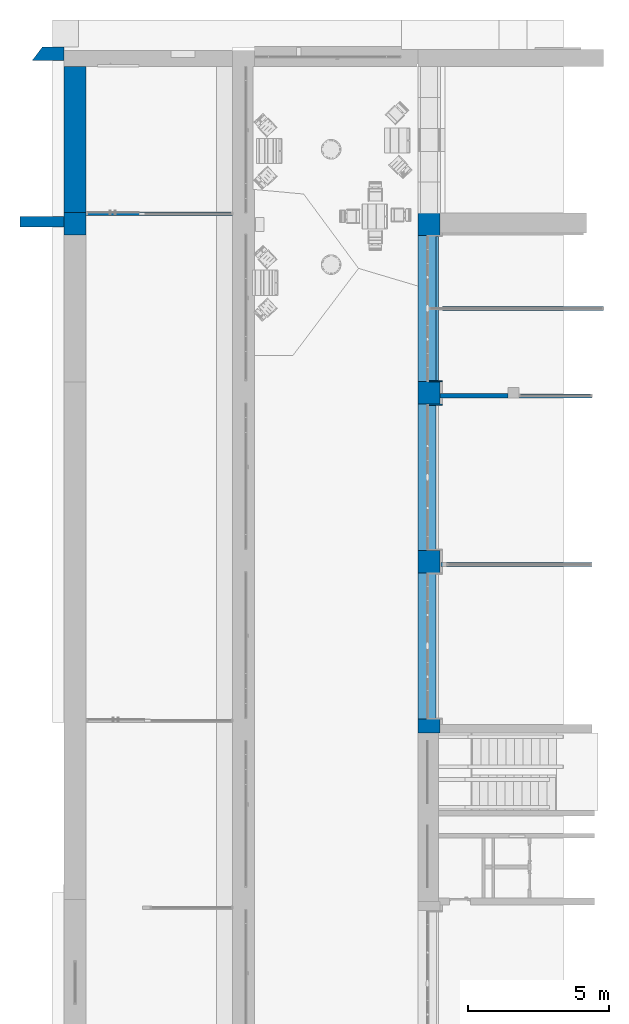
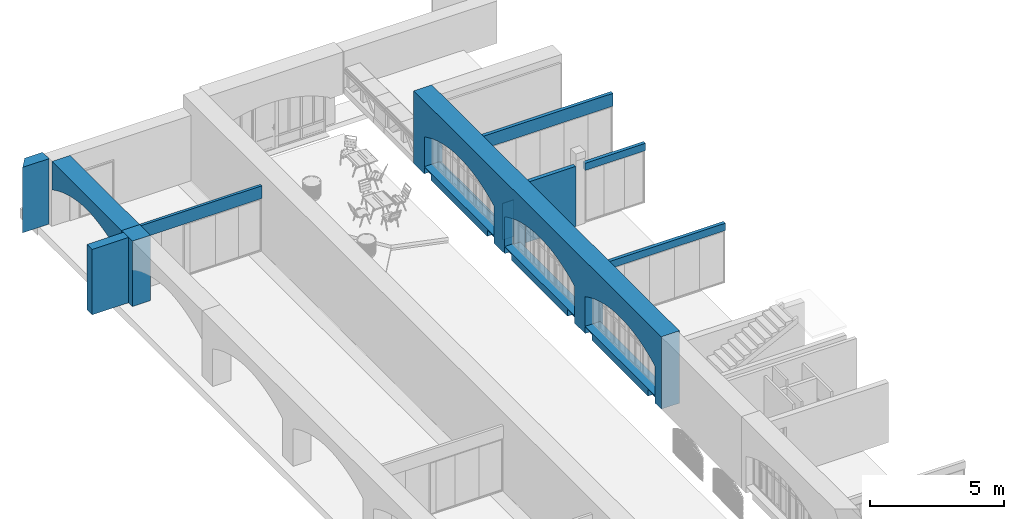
# One storey, part 74 of 88: 13 walls, 6 openings.
"""IFC2X3 building model written with IfcOpenShell, lengths in millimetres."""

from ifc_helpers import new_model, entity, si_unit, converted_unit, derived_unit, direction, frame, frame_2d, origin, origin_2d_with_axis, place, context, subcontext, project, spatial, polyline, circle_curve, parameter, trimmed, segment, composite_curve, rectangle, outline, extrude, material, layer, layer_set, layer_usage, type_object, element, save


model = new_model("IFC2X3")

# Units and contexts
model_context = context("Model", 3, precision=0.01, world=origin(), true_north=direction((6.123031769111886e-17, 1.0)))
body_context = subcontext(model_context, "Body", "Model", "MODEL_VIEW")
ifc_project = project(units=[si_unit("LENGTHUNIT", "METRE", prefix="MILLI"), si_unit("AREAUNIT", "SQUARE_METRE"), si_unit("VOLUMEUNIT", "CUBIC_METRE"), converted_unit("PLANEANGLEUNIT", "DEGREE", entity("IfcPlaneAngleMeasure", 0.017453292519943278), si_unit("PLANEANGLEUNIT", "RADIAN"), dimensions=[0, 0, 0, 0, 0, 0, 0]), si_unit("MASSUNIT", "GRAM", prefix="KILO"), derived_unit("MASSDENSITYUNIT", [(si_unit("MASSUNIT", "GRAM", prefix="KILO"), 1), (si_unit("LENGTHUNIT", "METRE"), -3)]), derived_unit("IONCONCENTRATIONUNIT", [(si_unit("MASSUNIT", "GRAM", prefix="KILO"), 1), (si_unit("LENGTHUNIT", "METRE"), -3)]), derived_unit("MOMENTOFINERTIAUNIT", [(si_unit("LENGTHUNIT", "METRE"), 4)]), si_unit("TIMEUNIT", "SECOND"), si_unit("FREQUENCYUNIT", "HERTZ"), si_unit("THERMODYNAMICTEMPERATUREUNIT", "DEGREE_CELSIUS"), derived_unit("THERMALTRANSMITTANCEUNIT", [(si_unit("MASSUNIT", "GRAM", prefix="KILO"), 1), (si_unit("THERMODYNAMICTEMPERATUREUNIT", "KELVIN"), -1), (si_unit("TIMEUNIT", "SECOND"), -3)]), derived_unit("THERMALCONDUCTANCEUNIT", [(si_unit("MASSUNIT", "GRAM", prefix="KILO"), 1), (si_unit("THERMODYNAMICTEMPERATUREUNIT", "KELVIN"), -1), (si_unit("TIMEUNIT", "SECOND"), -3), (si_unit("LENGTHUNIT", "METRE"), 1)]), derived_unit("VOLUMETRICFLOWRATEUNIT", [(si_unit("LENGTHUNIT", "METRE", prefix="DECI"), 3), (si_unit("TIMEUNIT", "SECOND"), -1)]), derived_unit("MASSFLOWRATEUNIT", [(si_unit("MASSUNIT", "GRAM", prefix="KILO"), 1), (si_unit("TIMEUNIT", "SECOND"), -1)]), derived_unit("ROTATIONALFREQUENCYUNIT", [(si_unit("TIMEUNIT", "SECOND"), -1)]), si_unit("ELECTRICCURRENTUNIT", "AMPERE"), si_unit("ELECTRICVOLTAGEUNIT", "VOLT"), si_unit("POWERUNIT", "WATT"), si_unit("FORCEUNIT", "NEWTON", prefix="KILO"), si_unit("ILLUMINANCEUNIT", "LUX"), si_unit("LUMINOUSFLUXUNIT", "LUMEN"), si_unit("LUMINOUSINTENSITYUNIT", "CANDELA"), si_unit("ENERGYUNIT", "JOULE"), derived_unit("USERDEFINED", [(si_unit("MASSUNIT", "GRAM", prefix="KILO"), -1), (si_unit("LENGTHUNIT", "METRE"), -2), (si_unit("TIMEUNIT", "SECOND"), 3), (si_unit("LUMINOUSFLUXUNIT", "LUMEN"), 1)]), derived_unit("USERDEFINED", [(si_unit("MASSUNIT", "GRAM", prefix="KILO"), 1), (si_unit("TIMEUNIT", "SECOND"), -3), (si_unit("LENGTHUNIT", "METRE"), 3), (si_unit("ELECTRICCURRENTUNIT", "AMPERE"), -2)]), derived_unit("SOUNDPOWERUNIT", [(si_unit("MASSUNIT", "GRAM", prefix="KILO"), 1), (si_unit("TIMEUNIT", "SECOND"), -3), (si_unit("LENGTHUNIT", "METRE"), 2)]), derived_unit("SOUNDPRESSUREUNIT", [(si_unit("MASSUNIT", "GRAM", prefix="KILO"), 1), (si_unit("LENGTHUNIT", "METRE"), -1), (si_unit("TIMEUNIT", "SECOND"), -2)]), derived_unit("LINEARVELOCITYUNIT", [(si_unit("LENGTHUNIT", "METRE"), 1), (si_unit("TIMEUNIT", "SECOND"), -1)]), si_unit("PRESSUREUNIT", "PASCAL"), derived_unit("USERDEFINED", [(si_unit("MASSUNIT", "GRAM", prefix="KILO"), 1), (si_unit("LENGTHUNIT", "METRE"), -2), (si_unit("TIMEUNIT", "SECOND"), -2)]), derived_unit("LINEARFORCEUNIT", [(si_unit("MASSUNIT", "GRAM", prefix="KILO"), 1), (si_unit("TIMEUNIT", "SECOND"), -2)]), derived_unit("PLANARFORCEUNIT", [(si_unit("MASSUNIT", "GRAM", prefix="KILO"), 1), (si_unit("LENGTHUNIT", "METRE"), -1), (si_unit("TIMEUNIT", "SECOND"), -2)]), derived_unit("SPECIFICHEATCAPACITYUNIT", [(si_unit("THERMODYNAMICTEMPERATUREUNIT", "KELVIN"), -1), (si_unit("LENGTHUNIT", "METRE"), 2), (si_unit("TIMEUNIT", "SECOND"), -2)]), derived_unit("HEATFLUXDENSITYUNIT", [(si_unit("MASSUNIT", "GRAM", prefix="KILO"), 1), (si_unit("TIMEUNIT", "SECOND"), -3)]), derived_unit("HEATINGVALUEUNIT", [(si_unit("LENGTHUNIT", "METRE"), 2), (si_unit("TIMEUNIT", "SECOND"), -2)]), derived_unit("VAPORPERMEABILITYUNIT", [(si_unit("LENGTHUNIT", "METRE"), -1), (si_unit("TIMEUNIT", "SECOND"), 1)]), derived_unit("DYNAMICVISCOSITYUNIT", [(si_unit("MASSUNIT", "GRAM", prefix="KILO"), 1), (si_unit("TIMEUNIT", "SECOND"), -1), (si_unit("LENGTHUNIT", "METRE"), -1)]), derived_unit("THERMALEXPANSIONCOEFFICIENTUNIT", [(si_unit("THERMODYNAMICTEMPERATUREUNIT", "KELVIN"), -1)]), derived_unit("MODULUSOFELASTICITYUNIT", [(si_unit("MASSUNIT", "GRAM", prefix="KILO"), 1), (si_unit("LENGTHUNIT", "METRE"), -1), (si_unit("TIMEUNIT", "SECOND"), -2)]), derived_unit("ISOTHERMALMOISTURECAPACITYUNIT", [(si_unit("MASSUNIT", "GRAM", prefix="KILO"), -1), (si_unit("LENGTHUNIT", "METRE"), 3)]), derived_unit("MOISTUREDIFFUSIVITYUNIT", [(si_unit("TIMEUNIT", "SECOND"), -1), (si_unit("LENGTHUNIT", "METRE"), 2)]), derived_unit("MASSPERLENGTHUNIT", [(si_unit("MASSUNIT", "GRAM", prefix="KILO"), 1), (si_unit("LENGTHUNIT", "METRE"), -1)]), derived_unit("THERMALRESISTANCEUNIT", [(si_unit("MASSUNIT", "GRAM", prefix="KILO"), -1), (si_unit("TIMEUNIT", "SECOND"), 3), (si_unit("THERMODYNAMICTEMPERATUREUNIT", "KELVIN"), 1)]), derived_unit("ACCELERATIONUNIT", [(si_unit("LENGTHUNIT", "METRE"), 1), (si_unit("TIMEUNIT", "SECOND"), -2)]), derived_unit("ANGULARVELOCITYUNIT", [(si_unit("TIMEUNIT", "SECOND"), -1), (si_unit("PLANEANGLEUNIT", "RADIAN"), 1)]), derived_unit("LINEARSTIFFNESSUNIT", [(si_unit("MASSUNIT", "GRAM", prefix="KILO"), 1), (si_unit("TIMEUNIT", "SECOND"), -2)]), derived_unit("WARPINGCONSTANTUNIT", [(si_unit("LENGTHUNIT", "METRE"), 6)]), derived_unit("LINEARMOMENTUNIT", [(si_unit("MASSUNIT", "GRAM", prefix="KILO"), 1), (si_unit("LENGTHUNIT", "METRE"), 1), (si_unit("TIMEUNIT", "SECOND"), -2)]), derived_unit("TORQUEUNIT", [(si_unit("MASSUNIT", "GRAM", prefix="KILO"), 1), (si_unit("LENGTHUNIT", "METRE"), 2), (si_unit("TIMEUNIT", "SECOND"), -2)])], contexts=[model_context])

# Site, building, storey
site_placement = place(None, origin())
site = spatial("IfcSite", under=ifc_project, at=site_placement, Name="Default", CompositionType="ELEMENT")
building_placement = place(site_placement, origin())
building = spatial("IfcBuilding", under=site, at=building_placement, Name="Eesti Rahvusraamatukogu hoone renoveerimise projekteerimistööd", CompositionType="ELEMENT")
storey_placement = place(building_placement, origin())
storey = spatial("IfcBuildingStorey", under=building, at=storey_placement, Name="1. korrus", CompositionType="ELEMENT", Elevation=0.0)

# Wall, openings
ifc_material_1 = material(Name="ol. olev materjal")
ifc_layer_1 = layer(ifc_material_1, 780.0)
ifc_layer_set_1 = layer_set([ifc_layer_1], Name="Basic Wall:ol. olev - 780mm")
ifc_layer_usage_1 = layer_usage(ifc_layer_set_1, "AXIS2", "NEGATIVE", 390.0)
wall_type_1 = type_object("IfcWallType", Name="Basic Wall:ol. olev - 780mm", PredefinedType="STANDARD", material=ifc_layer_set_1)
wall_1_placement = place(storey_placement, frame((-36390.0, 48780.0, 1650.0), z_axis=(0.0, 0.0, 1.0), x_axis=(0.0, -1.0, 0.0)))
wall_1 = element("IfcWallStandardCase", 1, at=wall_1_placement, inside=storey, type_object=wall_type_1, material=ifc_layer_usage_1, Name="Basic Wall:ol. olev - 780mm", ObjectType="Basic Wall:ol. olev - 780mm", context=body_context, shape_type="SweptSolid", body=[
    extrude(rectangle(XDim=18474.99999999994, YDim=779.9999999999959, at=frame_2d((9237.49999999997, -3.979039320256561e-13), x_axis=(-1.0, 0.0))), origin(), (0.0, 0.0, 1.0), 3300.0000000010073),
])
opening_1_placement = place(wall_1_placement, frame((5991.595272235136, -542.4000000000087, 330.0)))
element("IfcOpeningElement", 2, at=opening_1_placement, cuts=wall_1, Name="Basic Wall:ol. olev - 780mm", ObjectType="Opening", context=body_context, shape_type="SweptSolid", body=[
    extrude(outline(composite_curve([segment(polyline([(-675.0, -2600.0), (675.0, -2600.0)]), True, "CONTINUOUS"), segment(trimmed(circle_curve(frame_2d((-4195.143901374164, 0.0), x_axis=(0.0, -1.0)), 5520.7156800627), [parameter(61.90379627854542)], [parameter(118.09620372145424)], True, "PARAMETER"), True, "CONTINUOUS"), segment(polyline([(675.0, 2600.0), (-675.0, 2600.0)]), True, "CONTINUOUS"), segment(polyline([(-675.0, 2600.0), (-675.0, -2600.0)]), True, "CONTINUOUS")], self_intersect=False)), frame((-2601.5952722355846, 0.0, 675.0), z_axis=(0.0, 1.0, 0.0), x_axis=(0.0, 0.0, 1.0)), (0.0, 0.0, 1.0), 1084.8000000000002),
])
opening_2_placement = place(wall_1_placement, frame((48780.0, 36390.0, -1650.0)))
element("IfcOpeningElement", 3, at=opening_2_placement, cuts=wall_1, Name="Basic Wall:ol. olev - 780mm", ObjectType="Recess", context=body_context, shape_type="SweptSolid", body=[
    extrude(rectangle(XDim=3600.000000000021, YDim=499.999999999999, at=origin_2d_with_axis()), frame((-7040.0, -36790.0, 150.0), z_axis=(0.0, 1.0, 0.0), x_axis=(0.0, 0.0, -1.0)), (0.0, 0.0, 1.0), 199.99999999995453),
    extrude(rectangle(XDim=3600.000000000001, YDim=499.999999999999, at=frame_2d((0.0, -4.334310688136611e-12), x_axis=(1.0, 0.0))), frame((-47740.0, -36790.0, 150.0), z_axis=(0.0, 1.0, 0.0), x_axis=(0.0, 0.0, -1.0)), (0.0, 0.0, 1.0), 199.99999999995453),
    extrude(rectangle(XDim=3599.9999999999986, YDim=499.999999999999, at=frame_2d((0.0, -4.334310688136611e-12), x_axis=(1.0, 0.0))), frame((-43040.0, -36790.0, 150.0), z_axis=(0.0, 1.0, 0.0), x_axis=(0.0, 0.0, -1.0)), (0.0, 0.0, 1.0), 199.99999999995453),
    extrude(rectangle(XDim=3600.0000000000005, YDim=499.999999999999, at=frame_2d((2.2737367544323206e-13, -4.334310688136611e-12), x_axis=(1.0, 0.0))), frame((-41740.0, -36790.0, 150.0), z_axis=(0.0, 1.0, 0.0), x_axis=(0.0, 0.0, -1.0)), (0.0, 0.0, 1.0), 199.99999999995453),
    extrude(rectangle(XDim=3599.999999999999, YDim=499.999999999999, at=origin_2d_with_axis()), frame((-37040.0, -36790.0, 150.0), z_axis=(0.0, 1.0, 0.0), x_axis=(0.0, 0.0, -1.0)), (0.0, 0.0, 1.0), 199.99999999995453),
    extrude(rectangle(XDim=3599.999999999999, YDim=499.999999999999, at=origin_2d_with_axis()), frame((-35740.0, -36790.0, 150.0), z_axis=(0.0, 1.0, 0.0), x_axis=(0.0, 0.0, -1.0)), (0.0, 0.0, 1.0), 199.99999999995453),
    extrude(rectangle(XDim=3599.9999999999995, YDim=499.999999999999, at=frame_2d((-2.2737367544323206e-13, 0.0), x_axis=(1.0, 0.0))), frame((-31040.0, -36790.0, 150.0), z_axis=(0.0, 1.0, 0.0), x_axis=(0.0, 0.0, -1.0)), (0.0, 0.0, 1.0), 199.99999999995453),
    extrude(rectangle(XDim=3600.000000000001, YDim=499.999999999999, at=origin_2d_with_axis()), frame((-23740.0, -36790.0, 150.0), z_axis=(0.0, 1.0, 0.0), x_axis=(0.0, 0.0, -1.0)), (0.0, 0.0, 1.0), 199.99999999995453),
    extrude(rectangle(XDim=3600.0000000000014, YDim=500.0000000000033, at=frame_2d((-2.2737367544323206e-13, 2.1600499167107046e-12), x_axis=(1.0, 0.0))), frame((-19040.0, -36790.0, 150.0), z_axis=(0.0, 1.0, 0.0), x_axis=(0.0, 0.0, -1.0)), (0.0, 0.0, 1.0), 199.99999999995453),
    extrude(rectangle(XDim=3600.000000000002, YDim=499.999999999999, at=origin_2d_with_axis()), frame((-17740.0, -36790.0, 150.0), z_axis=(0.0, 1.0, 0.0), x_axis=(0.0, 0.0, -1.0)), (0.0, 0.0, 1.0), 199.99999999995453),
    extrude(rectangle(XDim=3600.0000000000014, YDim=500.0000000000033, at=origin_2d_with_axis()), frame((-13040.0, -36790.0, 150.0), z_axis=(0.0, 1.0, 0.0), x_axis=(0.0, 0.0, -1.0)), (0.0, 0.0, 1.0), 199.99999999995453),
    extrude(rectangle(XDim=3600.0000000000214, YDim=499.999999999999, at=origin_2d_with_axis()), frame((-11740.0, -36790.0, 150.0), z_axis=(0.0, 1.0, 0.0), x_axis=(0.0, 0.0, -1.0)), (0.0, 0.0, 1.0), 199.99999999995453),
])
opening_3_placement = place(wall_1_placement, frame((11991.595272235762, -542.4000000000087, 330.0)))
element("IfcOpeningElement", 4, at=opening_3_placement, cuts=wall_1, Name="Basic Wall:ol. olev - 780mm", ObjectType="Opening", context=body_context, shape_type="SweptSolid", body=[
    extrude(outline(composite_curve([segment(polyline([(-675.0, -2600.0), (675.0, -2600.0)]), True, "CONTINUOUS"), segment(trimmed(circle_curve(frame_2d((-4195.143901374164, 0.0), x_axis=(0.0, -1.0)), 5520.7156800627), [parameter(61.90379627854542)], [parameter(118.09620372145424)], True, "PARAMETER"), True, "CONTINUOUS"), segment(polyline([(675.0, 2600.0), (-675.0, 2600.0)]), True, "CONTINUOUS"), segment(polyline([(-675.0, 2600.0), (-675.0, -2600.0)]), True, "CONTINUOUS")], self_intersect=False)), frame((-2601.5952722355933, 0.0, 675.0), z_axis=(0.0, 1.0, 0.0), x_axis=(0.0, 0.0, 1.0)), (0.0, 0.0, 1.0), 1084.8000000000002),
])
opening_4_placement = place(wall_1_placement, frame((17991.595272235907, -542.4000000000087, 330.0)))
element("IfcOpeningElement", 5, at=opening_4_placement, cuts=wall_1, Name="Basic Wall:ol. olev - 780mm", ObjectType="Opening", context=body_context, shape_type="SweptSolid", body=[
    extrude(outline(composite_curve([segment(polyline([(-675.0, -2600.0), (675.0, -2600.0)]), True, "CONTINUOUS"), segment(trimmed(circle_curve(frame_2d((-4195.143901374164, 0.0), x_axis=(0.0, -1.0)), 5520.7156800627), [parameter(61.90379627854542)], [parameter(118.09620372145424)], True, "PARAMETER"), True, "CONTINUOUS"), segment(polyline([(675.0, 2600.0), (-675.0, 2600.0)]), True, "CONTINUOUS"), segment(polyline([(-675.0, 2600.0), (-675.0, -2600.0)]), True, "CONTINUOUS")], self_intersect=False)), frame((-2601.5952722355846, 0.0, 675.0), z_axis=(0.0, 1.0, 0.0), x_axis=(0.0, 0.0, 1.0)), (0.0, 0.0, 1.0), 1084.8000000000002),
])
opening_5_placement = place(wall_1_placement, frame((48780.0, 36390.0, -1650.0)))
element("IfcOpeningElement", 6, at=opening_5_placement, cuts=wall_1, Name="Basic Wall:ol. olev - 780mm", ObjectType="Recess", context=body_context, shape_type="SweptSolid", body=[
    extrude(rectangle(XDim=330.0, YDim=5199.999999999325, at=frame_2d((-1.2789769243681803e-13, 6.59383658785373e-12), x_axis=(1.0, 0.0))), frame((-39390.0, -36140.0, 1815.0), z_axis=(0.0, 1.0, 0.0), x_axis=(0.0, 0.0, -1.0)), (0.0, 0.0, 1.0), 139.9999999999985),
    extrude(rectangle(XDim=330.0, YDim=5199.999999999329, at=frame_2d((-1.2789769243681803e-13, 4.320099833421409e-12), x_axis=(1.0, 0.0))), frame((-45390.0, -36140.0, 1815.0), z_axis=(0.0, 1.0, 0.0), x_axis=(0.0, 0.0, -1.0)), (0.0, 0.0, 1.0), 139.9999999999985),
    extrude(rectangle(XDim=330.0, YDim=5199.999999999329, at=frame_2d((-1.2789769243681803e-13, 0.0), x_axis=(1.0, 0.0))), frame((-33390.0, -36140.0, 1815.0), z_axis=(0.0, 1.0, 0.0), x_axis=(0.0, 0.0, -1.0)), (0.0, 0.0, 1.0), 139.9999999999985),
])

# Wall, opening
ifc_layer_usage_2 = layer_usage(ifc_layer_set_1, "AXIS2", "NEGATIVE", 390.0)
wall_2_placement = place(storey_placement, frame((-48970.0, 53990.376279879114, 1658.4047277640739), z_axis=(0.0, 0.0, 1.0), x_axis=(0.0, -1.0, 0.0)))
wall_2 = element("IfcWallStandardCase", 7, at=wall_2_placement, inside=storey, type_object=wall_type_1, material=ifc_layer_usage_2, Name="Basic Wall:ol. olev - 780mm", ObjectType="Basic Wall:ol. olev - 780mm", context=body_context, shape_type="SweptSolid", body=[
    extrude(rectangle(XDim=5190.441709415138, YDim=779.9999999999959, at=frame_2d((2595.220854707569, -2.1032064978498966e-12), x_axis=(-1.0, 0.0))), origin(), (0.0, 0.0, 1.0), 1321.5952722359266),
])
opening_6_placement = place(wall_2_placement, frame((53990.37627987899, 48970.0, -1658.4047277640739)))
element("IfcOpeningElement", 8, at=opening_6_placement, cuts=wall_2, Name="Basic Wall:ol. olev - 780mm", ObjectType="Opening", context=body_context, shape_type="SweptSolid", body=[
    extrude(outline(composite_curve([segment(polyline([(-1138.0, -2610.0), (522.0, -2610.0)]), True, "CONTINUOUS"), segment(trimmed(circle_curve(frame_2d((-4230.534220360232, 84.40586071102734), x_axis=(0.0, -1.0)), 5463.186291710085), [parameter(60.44932733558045)], [parameter(89.11474883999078)], True, "PARAMETER"), True, "CONTINUOUS"), segment(trimmed(circle_curve(frame_2d((-4230.534220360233, -84.40586071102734), x_axis=(0.0, -1.0)), 5463.186291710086), [parameter(90.88525116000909)], [parameter(119.55067266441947)], True, "PARAMETER"), True, "CONTINUOUS"), segment(polyline([(522.0, 2610.0), (-1138.0, 2610.0)]), True, "CONTINUOUS"), segment(polyline([(-1138.0, 2610.0), (-1138.0, -2610.0)]), True, "CONTINUOUS")], self_intersect=False)), frame((-51409.93457046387, -50104.0, 1138.0), z_axis=(0.0, 1.0, 0.0), x_axis=(0.0, 0.0, 1.0)), (0.0, 0.0, 1.0), 3048.0),
])

# Walls
ifc_layer_usage_3 = layer_usage(ifc_layer_set_1, "AXIS2", "NEGATIVE", 390.0)
wall_3_placement = place(storey_placement, frame((-48970.0, 48799.93457046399, 0.0), z_axis=(0.0, 0.0, 1.0), x_axis=(0.0, -1.0, 0.0)))
element("IfcWallStandardCase", 9, at=wall_3_placement, inside=storey, type_object=wall_type_1, material=ifc_layer_usage_3, Name="Basic Wall:ol. olev - 780mm", ObjectType="Basic Wall:ol. olev - 780mm", context=body_context, shape_type="SweptSolid", body=[
    extrude(rectangle(XDim=804.2740149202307, YDim=779.9999999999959, at=frame_2d((402.13700746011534, 1.2221335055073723e-12), x_axis=(-1.0, 0.0))), origin(), (0.0, 0.0, 1.0), 2980.0000000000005),
])
ifc_layer_2 = layer(ifc_material_1, 480.0)
ifc_layer_set_2 = layer_set([ifc_layer_2], Name="Basic Wall:ol. olev - 480mm")
ifc_layer_usage_4 = layer_usage(ifc_layer_set_2, "AXIS2", "NEGATIVE", 240.0)
wall_type_2 = type_object("IfcWallType", Name="Basic Wall:ol. olev - 480mm", PredefinedType="STANDARD", material=ifc_layer_set_2)
wall_4_placement = place(storey_placement, frame((-49360.0, 54440.37627987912, 0.0), z_axis=(0.0, 0.0, 1.0), x_axis=(-1.0, 0.0, 0.0)))
element("IfcWallStandardCase", 10, at=wall_4_placement, inside=storey, type_object=wall_type_2, material=ifc_layer_usage_4, Name="Basic Wall:ol. olev - 480mm", ObjectType="Basic Wall:ol. olev - 480mm", context=body_context, shape_type="SweptSolid", body=[
    extrude(outline(polyline([(779.7416645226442, -240.0), (1141.447608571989, 240.0), (665.6360584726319, 240.0), (0.0, 240.0), (0.0, -130.0), (0.0, -240.0), (779.7416645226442, -240.0)])), origin(), (0.0, 0.0, 1.0), 2980.0000000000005),
])
ifc_layer_3 = layer(ifc_material_1, 380.00000000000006)
ifc_layer_set_3 = layer_set([ifc_layer_3], Name="Basic Wall:ol. olev - 380mm")
ifc_layer_usage_5 = layer_usage(ifc_layer_set_3, "AXIS2", "NEGATIVE", 190.00000000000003)
wall_type_3 = type_object("IfcWallType", Name="Basic Wall:ol. olev - 380mm", PredefinedType="STANDARD", material=ifc_layer_set_3)
wall_5_placement = place(storey_placement, frame((-50930.0, 48470.376279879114, 0.0)))
element("IfcWallStandardCase", 11, at=wall_5_placement, inside=storey, type_object=wall_type_3, material=ifc_layer_usage_5, Name="Basic Wall:ol. olev - 380mm", ObjectType="Basic Wall:ol. olev - 380mm", context=body_context, shape_type="SweptSolid", body=[
    extrude(rectangle(XDim=1569.999999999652, YDim=380.0000000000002, at=frame_2d((784.999999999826, -1.6200374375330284e-12), x_axis=(-1.0, 0.0))), origin(), (0.0, 0.0, 1.0), 2980.000000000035),
])
ifc_material_2 = material(Name="EST. Ehitusplaat. Kipsplaat")
ifc_layer_4 = layer(ifc_material_2, 12.5)
ifc_layer_5 = layer(ifc_material_2, 12.5)
ifc_material_3 = material(Name="EST. Roov. Kipsplaadi alusroov.Mineraalvillaga. Vertikaalne")
ifc_layer_6 = layer(ifc_material_3, 120.0)
ifc_layer_7 = layer(ifc_material_2, 12.5)
ifc_layer_8 = layer(ifc_material_2, 12.5)
ifc_layer_set_4 = layer_set([ifc_layer_4, ifc_layer_5, ifc_layer_6, ifc_layer_7, ifc_layer_8], Name="Basic Wall:SS-53 - 170 kergsein 52db")
ifc_layer_usage_6 = layer_usage(ifc_layer_set_4, "AXIS2", "NEGATIVE", 85.0)
wall_type_4 = type_object("IfcWallType", Name="Basic Wall:SS-53 - 170 kergsein 52db", PredefinedType="STANDARD", material=ifc_layer_set_4)
wall_6_placement = place(storey_placement, frame((-33590.0, 42290.0, 1650.0), z_axis=(0.0, 0.0, 1.0), x_axis=(-1.0, 0.0, 0.0)))
element("IfcWallStandardCase", 12, at=wall_6_placement, inside=storey, type_object=wall_type_4, material=ifc_layer_usage_6, Name="Basic Wall:SS-53 - 170 kergsein 52db", ObjectType="Basic Wall:SS-53 - 170 kergsein 52db", context=body_context, shape_type="SweptSolid", body=[
    extrude(rectangle(XDim=2410.0000000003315, YDim=169.999999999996, at=frame_2d((1205.0000000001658, 0.0), x_axis=(-1.0, 0.0))), origin(), (0.0, 0.0, 1.0), 2730.000000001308),
])
ifc_layer_9 = layer(ifc_material_2, 12.5)
ifc_layer_10 = layer(ifc_material_2, 12.5)
ifc_layer_11 = layer(ifc_material_3, 95.00000000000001)
ifc_layer_12 = layer(ifc_material_2, 12.5)
ifc_layer_13 = layer(ifc_material_2, 12.5)
ifc_layer_set_5 = layer_set([ifc_layer_9, ifc_layer_10, ifc_layer_11, ifc_layer_12, ifc_layer_13], Name="Basic Wall:SS-52 - 145 kergsein 48db")
ifc_layer_usage_7 = layer_usage(ifc_layer_set_5, "AXIS2", "NEGATIVE", 72.5)
wall_type_5 = type_object("IfcWallType", Name="Basic Wall:SS-52 - 145 kergsein 48db", PredefinedType="STANDARD", material=ifc_layer_set_5)
wall_7_placement = place(storey_placement, frame((-30185.0, 45390.0, 4050.0), z_axis=(0.0, 0.0, 1.0), x_axis=(-1.0, 0.0, 0.0)))
element("IfcWallStandardCase", 13, at=wall_7_placement, inside=storey, type_object=wall_type_5, material=ifc_layer_usage_7, Name="Basic Wall:SS-52 - 145 kergsein 48db", ObjectType="Basic Wall:SS-52 - 145 kergsein 48db", context=body_context, shape_type="SweptSolid", body=[
    extrude(rectangle(XDim=5730.499999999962, YDim=145.0000000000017, at=frame_2d((2865.249999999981, 1.0658141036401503e-13), x_axis=(-1.0, 0.0))), origin(), (0.0, 0.0, 1.0), 580.0000000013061),
])
ifc_layer_usage_8 = layer_usage(ifc_layer_set_5, "AXIS2", "NEGATIVE", 72.5)
wall_8_placement = place(storey_placement, frame((-33190.0, 42277.499999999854, 4050.0)))
element("IfcWallStandardCase", 14, at=wall_8_placement, inside=storey, type_object=wall_type_5, material=ifc_layer_usage_8, Name="Basic Wall:SS-52 - 145 kergsein 48db", ObjectType="Basic Wall:SS-52 - 145 kergsein 48db", context=body_context, shape_type="SweptSolid", body=[
    extrude(rectangle(XDim=2600.0000000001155, YDim=145.00000000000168, at=frame_2d((1300.0000000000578, 0.0), x_axis=(-1.0, 0.0))), origin(), (0.0, 0.0, 1.0), 330.0000000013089),
])
ifc_layer_usage_9 = layer_usage(ifc_layer_set_5, "AXIS2", "NEGATIVE", 72.5)
wall_9_placement = place(storey_placement, frame((-35970.0, 36284.74185018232, 4050.0)))
element("IfcWallStandardCase", 15, at=wall_9_placement, inside=storey, type_object=wall_type_5, material=ifc_layer_usage_9, Name="Basic Wall:SS-52 - 145 kergsein 48db", ObjectType="Basic Wall:SS-52 - 145 kergsein 48db", context=body_context, shape_type="SweptSolid", body=[
    extrude(rectangle(XDim=5370.000000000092, YDim=145.00000000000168, at=frame_2d((2685.000000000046, -3.126388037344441e-13), x_axis=(-1.0, 0.0))), origin(), (0.0, 0.0, 1.0), 330.0000000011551),
])
ifc_material_4 = material(Name="EST. Soojustus.PIR_Powerwall Pro")
ifc_layer_14 = layer(ifc_material_4, 30.0)
ifc_material_5 = material(Name="EST. Metall. Alumiinium. Mütsprofiil.")
ifc_layer_15 = layer(ifc_material_5, 42.0)
ifc_layer_16 = layer(ifc_material_2, 12.5)
ifc_layer_set_6 = layer_set([ifc_layer_14, ifc_layer_15, ifc_layer_16], Name="Basic Wall:VS-03.1 - soojustus")
ifc_layer_usage_10 = layer_usage(ifc_layer_set_6, "AXIS2", "POSITIVE", -42.25000000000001)
wall_type_6 = type_object("IfcWallType", Name="Basic Wall:VS-03.1 - soojustus", PredefinedType="STANDARD", material=ifc_layer_set_6)
wall_10_placement = place(storey_placement, frame((-36097.75000000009, 47950.49999999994, 1650.0), z_axis=(0.0, 0.0, 1.0), x_axis=(0.0, -1.0, 0.0)))
element("IfcWallStandardCase", 16, at=wall_10_placement, inside=storey, type_object=wall_type_6, material=ifc_layer_usage_10, Name="Basic Wall:VS-03.1 - soojustus", ObjectType="Basic Wall:VS-03.1 - soojustus", context=body_context, shape_type="SweptSolid", body=[
    extrude(rectangle(XDim=5120.999999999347, YDim=84.49999999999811, at=frame_2d((2560.4999999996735, 0.0), x_axis=(-1.0, 0.0))), origin(), (0.0, 0.0, 1.0), 319.99999999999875),
])
ifc_material_6 = material(Name="Gypsum Wall Board")
ifc_layer_17 = layer(ifc_material_6, 12.5)
ifc_material_7 = material(Name="EST. Ehitusplaat. OSB")
ifc_layer_18 = layer(ifc_material_7, 12.0)
ifc_material_8 = material(Name="Default")
ifc_layer_19 = layer(ifc_material_8, 66.0)
ifc_layer_20 = layer(ifc_material_7, 12.0)
ifc_layer_21 = layer(ifc_material_6, 12.5)
ifc_layer_set_7 = layer_set([ifc_layer_17, ifc_layer_18, ifc_layer_19, ifc_layer_20, ifc_layer_21], Name="Basic Wall:SS-51 - 115 kergsein 38db niiskuskindlam")
ifc_layer_usage_11 = layer_usage(ifc_layer_set_7, "AXIS2", "NEGATIVE", 57.49999999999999)
wall_type_7 = type_object("IfcWallType", Name="Basic Wall:SS-51 - 115 kergsein 38db niiskuskindlam", PredefinedType="STANDARD", material=ifc_layer_set_7)
wall_11_placement = place(storey_placement, frame((-43370.0, 48760.37627987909, 2400.0), z_axis=(0.0, 0.0, 1.0), x_axis=(-1.0, 0.0, 0.0)))
element("IfcWallStandardCase", 17, at=wall_11_placement, inside=storey, type_object=wall_type_7, material=ifc_layer_usage_11, Name="Basic Wall:SS-51 - 115 kergsein 38db niiskuskindlam", ObjectType="Basic Wall:SS-51 - 115 kergsein 38db niiskuskindlam", context=body_context, shape_type="SweptSolid", body=[
    extrude(rectangle(XDim=5210.000000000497, YDim=115.0000000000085, at=frame_2d((2605.0000000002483, 5.613287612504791e-13), x_axis=(-1.0, 0.0))), origin(), (0.0, 0.0, 1.0), 580.0000000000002),
])
ifc_layer_22 = layer(ifc_material_5, 27.0)
ifc_layer_23 = layer(ifc_material_2, 12.5)
ifc_layer_set_8 = layer_set([ifc_layer_22, ifc_layer_23], Name="Basic Wall:VS-03.1_karkass+kips")
ifc_layer_usage_12 = layer_usage(ifc_layer_set_8, "AXIS2", "POSITIVE", -19.749999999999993)
wall_type_8 = type_object("IfcWallType", Name="Basic Wall:VS-03.1_karkass+kips", PredefinedType="STANDARD", material=ifc_layer_set_8)
wall_12_placement = place(storey_placement, frame((-35915.49999999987, 41970.249999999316, 1650.0), z_axis=(0.0, 0.0, 1.0), x_axis=(-1.0, 0.0, 0.0)))
element("IfcWallStandardCase", 18, at=wall_12_placement, inside=storey, type_object=wall_type_8, material=ifc_layer_usage_12, Name="Basic Wall:VS-03.1_karkass+kips", ObjectType="Basic Wall:VS-03.1_karkass+kips", context=body_context, shape_type="SweptSolid", body=[
    extrude(rectangle(XDim=489.4999999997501, YDim=39.49999999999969, at=frame_2d((244.74999999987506, 8.633094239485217e-13), x_axis=(-1.0, 0.0))), origin(), (0.0, 0.0, 1.0), 1669.9999999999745),
])
ifc_layer_usage_13 = layer_usage(ifc_layer_set_8, "AXIS2", "NEGATIVE", 19.749999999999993)
wall_13_placement = place(storey_placement, frame((-35915.49999999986, 42809.7500000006, 1650.0), z_axis=(0.0, 0.0, 1.0), x_axis=(-1.0, 0.0, 0.0)))
element("IfcWallStandardCase", 19, at=wall_13_placement, inside=storey, type_object=wall_type_8, material=ifc_layer_usage_13, Name="Basic Wall:VS-03.1_karkass+kips", ObjectType="Basic Wall:VS-03.1_karkass+kips", context=body_context, shape_type="SweptSolid", body=[
    extrude(rectangle(XDim=489.4999999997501, YDim=39.49999999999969, at=frame_2d((244.74999999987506, -8.615330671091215e-13), x_axis=(-1.0, 0.0))), origin(), (0.0, 0.0, 1.0), 1669.9999999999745),
])

save(model, "model.ifc")
